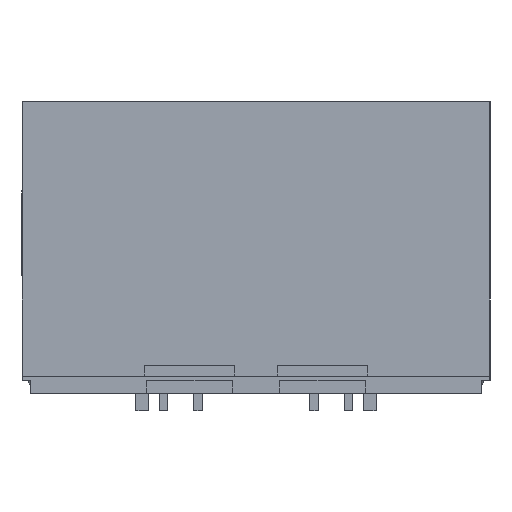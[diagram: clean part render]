
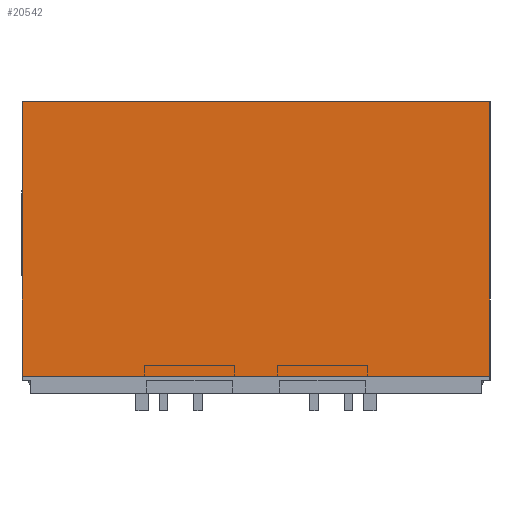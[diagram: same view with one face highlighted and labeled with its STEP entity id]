
A CAD part, left-side view. The second image highlights one B-rep face of the part: STEP entity #20542.
In plain terms, the highlighted planar face has unit normal (-1, 0, 0).
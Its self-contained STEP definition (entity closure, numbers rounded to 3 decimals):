
#68 = DIRECTION ( 'NONE',  ( 0., 0., -1. ) ) ;
#1557 = CARTESIAN_POINT ( 'NONE',  ( -132.5, -54.5, 64. ) ) ;
#5545 = VECTOR ( 'NONE', #24681, 1000. ) ;
#6993 = ORIENTED_EDGE ( 'NONE', *, *, #25534, .T. ) ;
#8170 = DIRECTION ( 'NONE',  ( 0., 0., -1. ) ) ;
#8352 = LINE ( 'NONE', #48113, #20322 ) ;
#8498 = CARTESIAN_POINT ( 'NONE',  ( -132.5, 0., 0. ) ) ;
#9273 = DIRECTION ( 'NONE',  ( 0., 0., 1. ) ) ;
#13183 = LINE ( 'NONE', #35745, #50211 ) ;
#16443 = VERTEX_POINT ( 'NONE', #18070 ) ;
#18070 = CARTESIAN_POINT ( 'NONE',  ( -132.5, 54.5, 0. ) ) ;
#20322 = VECTOR ( 'NONE', #68, 1000. ) ;
#20542 = ADVANCED_FACE ( 'NONE', ( #49035 ), #25277, .T. ) ;
#21727 = CARTESIAN_POINT ( 'NONE',  ( -132.5, 54.5, 64. ) ) ;
#24681 = DIRECTION ( 'NONE',  ( 0., -1., 0. ) ) ;
#25277 = PLANE ( 'NONE',  #38750 ) ;
#25534 = EDGE_CURVE ( 'NONE', #50551, #34632, #13183, .T. ) ;
#26990 = VERTEX_POINT ( 'NONE', #45918 ) ;
#27136 = ORIENTED_EDGE ( 'NONE', *, *, #47203, .T. ) ;
#28153 = CARTESIAN_POINT ( 'NONE',  ( -132.5, 54.5, 0. ) ) ;
#31412 = ORIENTED_EDGE ( 'NONE', *, *, #37289, .T. ) ;
#32575 = LINE ( 'NONE', #8498, #5545 ) ;
#34632 = VERTEX_POINT ( 'NONE', #21727 ) ;
#35745 = CARTESIAN_POINT ( 'NONE',  ( -132.5, 54.5, 64. ) ) ;
#37289 = EDGE_CURVE ( 'NONE', #16443, #26990, #32575, .T. ) ;
#37791 = LINE ( 'NONE', #28153, #47202 ) ;
#38750 = AXIS2_PLACEMENT_3D ( 'NONE', #49118, #48225, #9273 ) ;
#44020 = DIRECTION ( 'NONE',  ( 0., 1., 0. ) ) ;
#45918 = CARTESIAN_POINT ( 'NONE',  ( -132.5, -54.5, 0. ) ) ;
#45951 = EDGE_LOOP ( 'NONE', ( #6993, #27136, #31412, #46052 ) ) ;
#46052 = ORIENTED_EDGE ( 'NONE', *, *, #46113, .F. ) ;
#46113 = EDGE_CURVE ( 'NONE', #50551, #26990, #8352, .T. ) ;
#47202 = VECTOR ( 'NONE', #8170, 1000. ) ;
#47203 = EDGE_CURVE ( 'NONE', #34632, #16443, #37791, .T. ) ;
#48113 = CARTESIAN_POINT ( 'NONE',  ( -132.5, -54.5, 0. ) ) ;
#48225 = DIRECTION ( 'NONE',  ( -1., 0., 0. ) ) ;
#49035 = FACE_OUTER_BOUND ( 'NONE', #45951, .T. ) ;
#49118 = CARTESIAN_POINT ( 'NONE',  ( -132.5, 54.5, 0. ) ) ;
#50211 = VECTOR ( 'NONE', #44020, 1000. ) ;
#50551 = VERTEX_POINT ( 'NONE', #1557 ) ;
